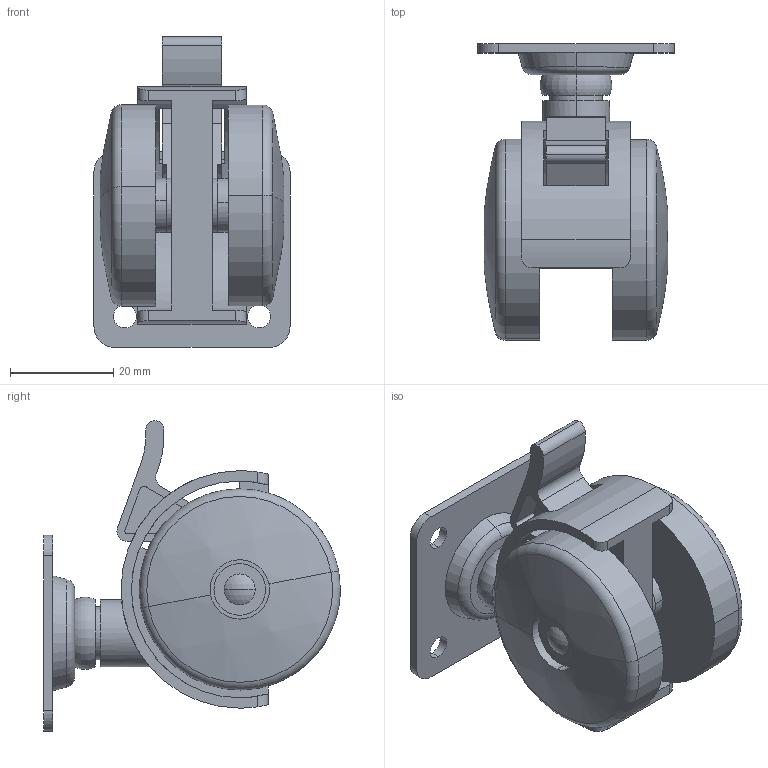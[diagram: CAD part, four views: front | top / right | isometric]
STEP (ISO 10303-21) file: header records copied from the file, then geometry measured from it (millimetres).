
FILE_DESCRIPTION (( 'STEP AP214' ), '1' );
FILE_NAME ('CAS-1000PS.STEP', '2020-03-31T03:16:57', ( '' ), ( '' ), 'SwSTEP 2.0', 'SolidWorks 2019', '' );
FILE_SCHEMA (( 'AUTOMOTIVE_DESIGN' ));
Length unit declared in the file: millimetre
Products named in the file (6): CAS-1000P_jiku; CAS-1000P_partsA; CAS-1000P_wheel; CAS-1000PS; CAS-1000PS_stopper; CAS-1000PS_partsB
Assembly tree (6 placements, depth 2):
  CAS-1000PS
    CAS-1000PS_partsB
    CAS-1000PS_stopper
    CAS-1000P_wheel  x2
    CAS-1000P_jiku
    CAS-1000P_partsA
Bounding box: 38 x 57.5 x 60.2 mm (x, y, z)
Volume: 39233.3 mm3; surface area: 19560.1 mm2
Topology: 6 solids, 6 shells, 145 faces, 364 edges, 239 vertices
Faces by surface type: cylinder 76, plane 53, torus 8, sphere 6, cone 2
Entity records: 4468 total; most frequent: CARTESIAN_POINT 898, DIRECTION 758, ORIENTED_EDGE 664, EDGE_CURVE 332, AXIS2_PLACEMENT_3D 297, VERTEX_POINT 219, LINE 164, VECTOR 164
